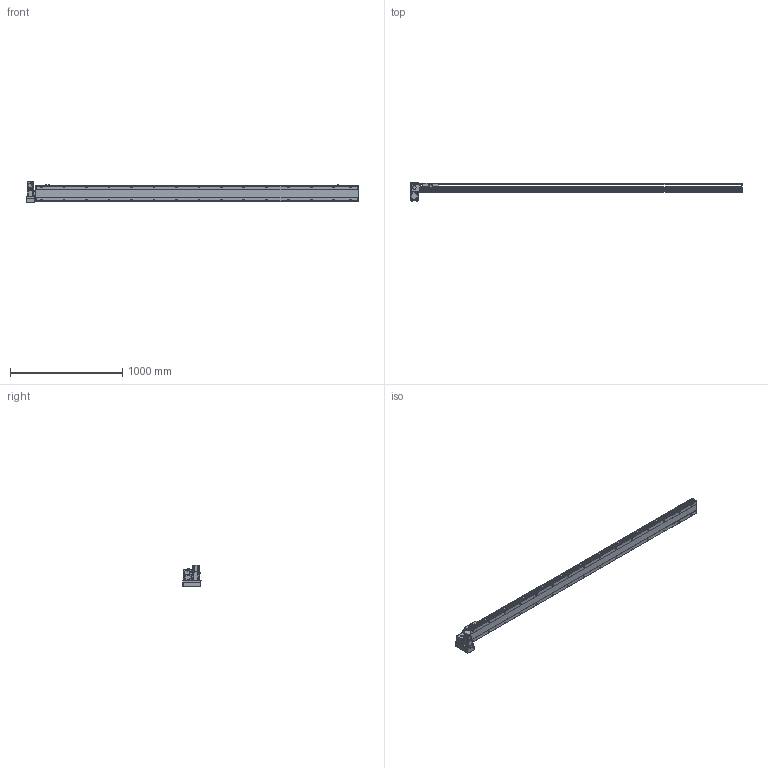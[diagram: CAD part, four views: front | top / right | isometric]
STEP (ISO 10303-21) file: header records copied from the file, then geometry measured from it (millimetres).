
FILE_DESCRIPTION( ( 'STEP AP214' ), '1' );
FILE_NAME( 'x:/temp/worker_27/temp/exporttempdir_6708_583_x9ZHl/format_0/PBS140-P40-S2600-LD-T40-C1-N(0).stp', '2022-06-06T05:58:26', ( 'License CC BY-ND 4.0' ), ( 'CADENAS' ), ' ', 'PARTsolutions', ' ' );
FILE_SCHEMA( ( 'AUTOMOTIVE_DESIGN { 1 0 10303 214 1 1 1 1 }' ) );
Length unit declared in the file: millimetre
Products named in the file (7): PBS140-P40-S2600-LD-T40-C1-N(0); _PBS140-S2600()_body; _PBS140T-LD_motors; _T40-p1; _PBS140_sliser; _PBS140_plant; _PBS140_sensor
Assembly tree (8 placements, depth 2):
  PBS140-P40-S2600-LD-T40-C1-N(0)
    _PBS140-S2600()_body
    _PBS140T-LD_motors
    _T40-p1
    _PBS140_sliser
    _PBS140_plant
    _PBS140_sensor  x3
Bounding box: 2954 x 162 x 189.7 mm (x, y, z)
Volume: 13220063.6 mm3; surface area: 2249233.6 mm2
Topology: 8 solids, 8 shells, 1187 faces, 3116 edges, 2035 vertices
Faces by surface type: plane 734, cylinder 387, cone 56, sphere 8, torus 2
Full cylindrical faces by diameter (mm): 3.242 x4, 4 x2, 4.134 x4, 4.4 x8, 4.5 x2, 4.8 x4, 4.917 x38, 5.5 x7, 6 x2, 7 x32, 7.5 x8, 8 x12, 8.5 x4, 10.5 x30, 14 x1, 30 x2, 50 x2
Entity records: 43783 total; most frequent: CARTESIAN_POINT 7427, DIRECTION 5687, ORIENTED_EDGE 5332, EDGE_CURVE 2666, AXIS2_PLACEMENT_3D 2017, VERTEX_POINT 1869, LINE 1653, VECTOR 1653
